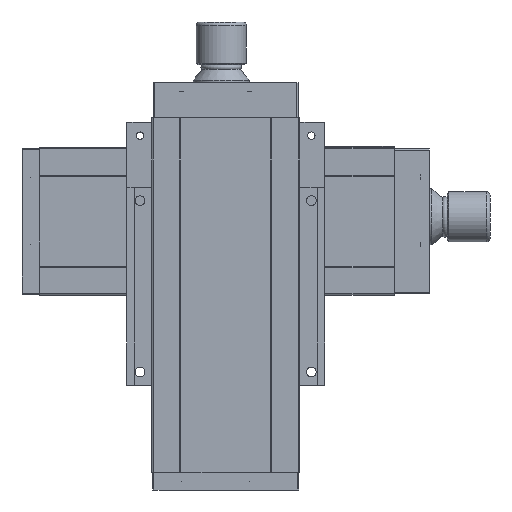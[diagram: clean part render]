
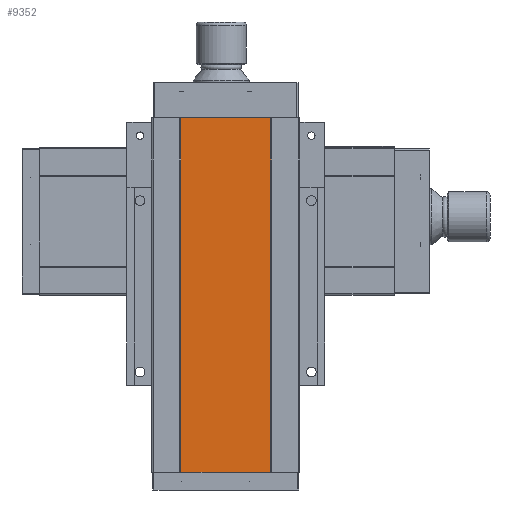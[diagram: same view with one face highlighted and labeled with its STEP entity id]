
A CAD part, front view. The second image highlights one B-rep face of the part: STEP entity #9352.
In plain terms, the highlighted planar face has unit normal (0, -1, 0).
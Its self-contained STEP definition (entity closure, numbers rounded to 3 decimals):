
#704 = FACE_OUTER_BOUND ( 'NONE', #9108, .T. ) ;
#705 = PLANE ( 'NONE',  #706 ) ;
#706 = AXIS2_PLACEMENT_3D ( 'NONE', #707, #708, #709 ) ;
#707 = CARTESIAN_POINT ( 'NONE',  ( 17.655, -10.8, -132. ) ) ;
#708 = DIRECTION ( 'NONE',  ( 0., 1., 0. ) ) ;
#709 = DIRECTION ( 'NONE',  ( 0., 0., 1. ) ) ;
#2804 = VERTEX_POINT ( 'NONE', #6304 ) ;
#2855 = VERTEX_POINT ( 'NONE', #6385 ) ;
#2906 = EDGE_CURVE ( 'NONE', #2855, #2804, #6472, .T. ) ;
#4095 = VERTEX_POINT ( 'NONE', #9120 ) ;
#4159 = EDGE_CURVE ( 'NONE', #4095, #2855, #9426, .T. ) ;
#5817 = ORIENTED_EDGE ( 'NONE', *, *, #4159, .T. ) ;
#6304 = CARTESIAN_POINT ( 'NONE',  ( -14.655, -10.8, -12. ) ) ;
#6385 = CARTESIAN_POINT ( 'NONE',  ( 17.655, -10.8, -12. ) ) ;
#6397 = EDGE_CURVE ( 'NONE', #4095, #7365, #12506, .T. ) ;
#6472 = LINE ( 'NONE', #6473, #6474 ) ;
#6473 = CARTESIAN_POINT ( 'NONE',  ( 17.655, -10.8, -12. ) ) ;
#6474 = VECTOR ( 'NONE', #6475, 1000. ) ;
#6475 = DIRECTION ( 'NONE',  ( -1., 0., 0. ) ) ;
#6782 = ORIENTED_EDGE ( 'NONE', *, *, #6397, .F. ) ;
#7365 = VERTEX_POINT ( 'NONE', #13031 ) ;
#7601 = EDGE_CURVE ( 'NONE', #7365, #2804, #13107, .T. ) ;
#7970 = ORIENTED_EDGE ( 'NONE', *, *, #7601, .F. ) ;
#8544 = ORIENTED_EDGE ( 'NONE', *, *, #2906, .T. ) ;
#9108 = EDGE_LOOP ( 'NONE', ( #8544, #7970, #6782, #5817 ) ) ;
#9120 = CARTESIAN_POINT ( 'NONE',  ( 17.655, -10.8, -132. ) ) ;
#9352 = ADVANCED_FACE ( 'NONE', ( #704 ), #705, .F. ) ;
#9426 = LINE ( 'NONE', #9427, #9428 ) ;
#9427 = CARTESIAN_POINT ( 'NONE',  ( 17.655, -10.8, -132. ) ) ;
#9428 = VECTOR ( 'NONE', #9429, 1000. ) ;
#9429 = DIRECTION ( 'NONE',  ( 0., 0., 1. ) ) ;
#12506 = LINE ( 'NONE', #12507, #12508 ) ;
#12507 = CARTESIAN_POINT ( 'NONE',  ( 17.655, -10.8, -132. ) ) ;
#12508 = VECTOR ( 'NONE', #12509, 1000. ) ;
#12509 = DIRECTION ( 'NONE',  ( -1., 0., 0. ) ) ;
#13031 = CARTESIAN_POINT ( 'NONE',  ( -14.655, -10.8, -132. ) ) ;
#13107 = LINE ( 'NONE', #13108, #13109 ) ;
#13108 = CARTESIAN_POINT ( 'NONE',  ( -14.655, -10.8, -132. ) ) ;
#13109 = VECTOR ( 'NONE', #13110, 1000. ) ;
#13110 = DIRECTION ( 'NONE',  ( 0., 0., 1. ) ) ;
